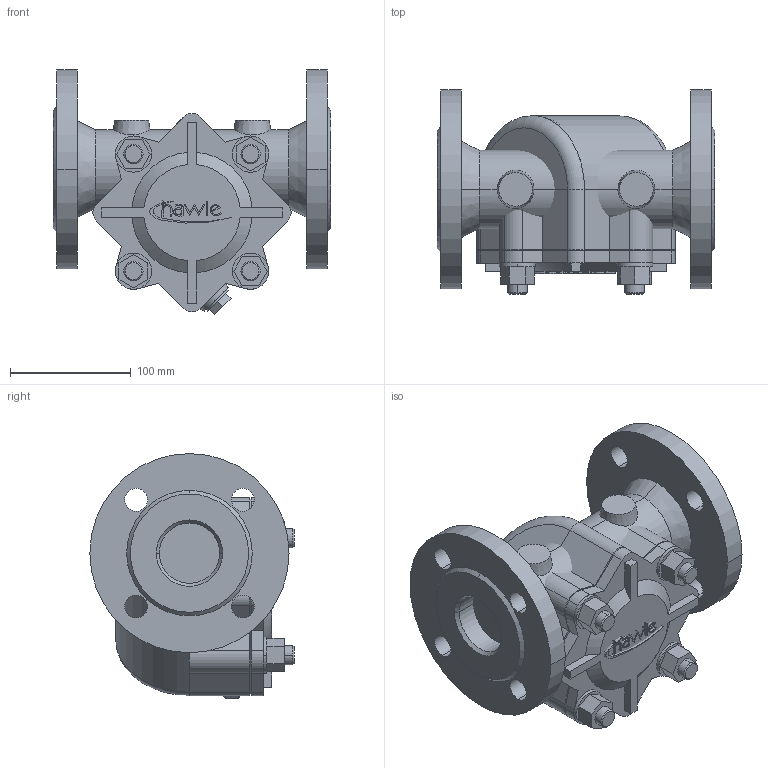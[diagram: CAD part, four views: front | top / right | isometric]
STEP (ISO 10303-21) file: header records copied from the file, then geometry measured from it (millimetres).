
FILE_DESCRIPTION(('STEP AP214'),'1');
FILE_NAME('S:/EK/USER/CAT6/3DHomepage_27-04-2012/neu_22-02-2013/9911/9911_PN16_DN50.STP','2013-02-26T13:21:49',(' '),(' '),'Spatial InterOp 3D',' ',' ');
FILE_SCHEMA(('automotive_design'));
Length unit declared in the file: millimetre
Products named in the file (41): 3D-Objekt
Bounding box: 230 x 169.2 x 202.84 mm (x, y, z)
Volume: 3680674.1 mm3; surface area: 478845.9 mm2
Topology: 41 solids, 41 shells, 341 faces, 772 edges, 514 vertices
Faces by surface type: plane 198, cylinder 109, cone 30, torus 4
Entity records: 13471 total; most frequent: CARTESIAN_POINT 1834, DIRECTION 1808, ORIENTED_EDGE 1544, EDGE_CURVE 772, AXIS2_PLACEMENT_3D 668, VERTEX_POINT 514, LINE 472, VECTOR 472
